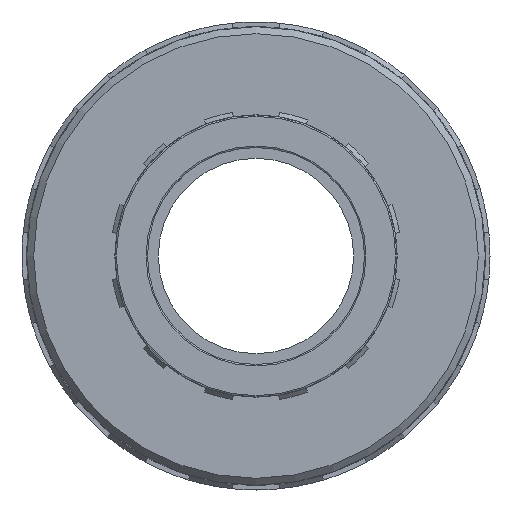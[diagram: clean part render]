
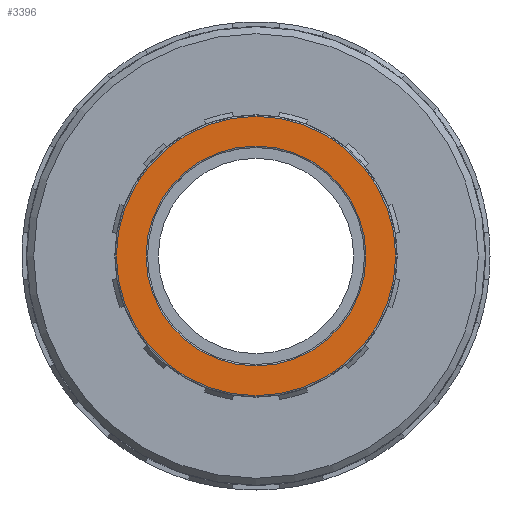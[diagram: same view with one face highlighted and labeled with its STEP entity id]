
A CAD part, left-side view. The second image highlights one B-rep face of the part: STEP entity #3396.
In plain terms, the highlighted planar face has unit normal (-1, 0, 0).
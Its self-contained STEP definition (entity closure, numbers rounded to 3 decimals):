
#29=FACE_BOUND('',#642,.T.);
#234=CIRCLE('',#3731,12.219);
#236=CIRCLE('',#3734,15.514);
#453=FACE_OUTER_BOUND('',#641,.T.);
#641=EDGE_LOOP('',(#2939));
#642=EDGE_LOOP('',(#2940));
#1630=VERTEX_POINT('',#5763);
#1632=VERTEX_POINT('',#5768);
#2112=EDGE_CURVE('',#1630,#1630,#234,.T.);
#2114=EDGE_CURVE('',#1632,#1632,#236,.T.);
#2939=ORIENTED_EDGE('',*,*,#2114,.F.);
#2940=ORIENTED_EDGE('',*,*,#2112,.F.);
#3223=PLANE('',#3733);
#3396=ADVANCED_FACE('',(#453,#29),#3223,.T.);
#3731=AXIS2_PLACEMENT_3D('',#5764,#4726,#4727);
#3733=AXIS2_PLACEMENT_3D('',#5767,#4730,#4731);
#3734=AXIS2_PLACEMENT_3D('',#5769,#4732,#4733);
#4726=DIRECTION('center_axis',(-1.,0.,0.));
#4727=DIRECTION('ref_axis',(0.,1.,0.));
#4730=DIRECTION('center_axis',(-1.,0.,0.));
#4731=DIRECTION('ref_axis',(0.,0.,1.));
#4732=DIRECTION('center_axis',(1.,0.,0.));
#4733=DIRECTION('ref_axis',(0.,1.,0.));
#5763=CARTESIAN_POINT('',(-25.5,-12.219,0.));
#5764=CARTESIAN_POINT('Origin',(-25.5,0.,0.));
#5767=CARTESIAN_POINT('Origin',(-25.5,-12.059,0.));
#5768=CARTESIAN_POINT('',(-25.5,-15.514,0.));
#5769=CARTESIAN_POINT('Origin',(-25.5,0.,0.));
